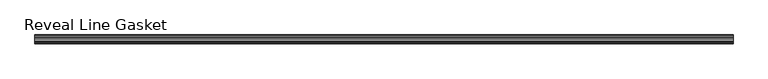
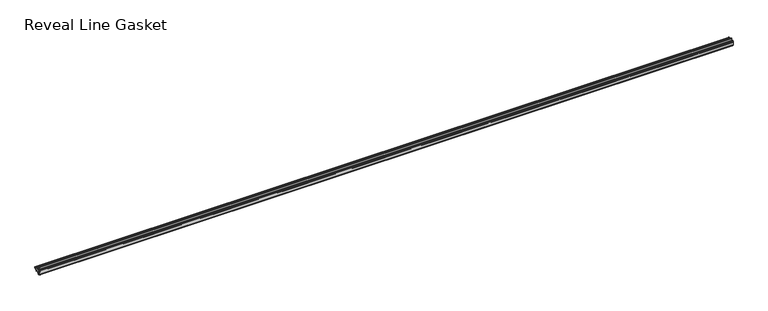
"""IFC4 building model written with IfcOpenShell, lengths in millimetres: proxy geometry, Accessories-Teknion-FHGR-AI_Healthcare-Reveal_Line_Gasket(Horizontal)-R2022 : Reveal Line Gasket."""

from ifc_helpers import new_model, si_unit, point, frame, frame_2d, origin, place, context, project, spatial, polyline, circle_curve, trimmed, segment, composite_curve, outline, extrude, source, transform, mapped, element, save


def reveal_line_gasket_2fde2d4f(model_context):
    return source(origin(), model_context, "Body", "SweptSolid", [
        extrude(outline(composite_curve([segment(polyline([(-7.6326998, 1603.2), (-7.4091917, 1604.1554927), (-6.8813059, 1605.0884684)]), True, "CONTINUOUS"), segment(trimmed(circle_curve(frame_2d((-6.5243141, 1604.8864793)), 0.4101739), [point((-6.8813059, 1605.0884684))], [point((-6.1246704, 1604.7941347))], False, "CARTESIAN"), True, "CONTINUOUS"), segment(polyline([(-6.1246704, 1604.7941347), (-6.3626997, 1603.0979086), (-6.3626997, 1601.0654527)]), True, "CONTINUOUS"), segment(trimmed(circle_curve(frame_2d((-5.6959605, 1601.4819258)), 0.786124), [point((-6.3626997, 1601.0654527))], [point((-5.0926996, 1600.977875))], True, "CARTESIAN"), True, "CONTINUOUS"), segment(polyline([(-5.0926996, 1600.977875), (-0.7492996, 1600.977875), (-3.7293824, 1606.1395295)]), True, "CONTINUOUS"), segment(trimmed(circle_curve(frame_2d((-3.3132479, 1606.2049761)), 0.4212495), [point((-3.7293824, 1606.1395295))], [point((-3.0485022, 1606.5326358))], False, "CARTESIAN"), True, "CONTINUOUS"), segment(polyline([(-3.0485022, 1606.5326358), (0.5742594, 1600.977875), (4.8262978, 1600.977875), (3.1660374, 1603.8535297)]), True, "CONTINUOUS"), segment(trimmed(circle_curve(frame_2d((3.5978728, 1603.9118855)), 0.4357605), [point((3.1660374, 1603.8535297))], [point((3.864328, 1604.2566881))], False, "CARTESIAN"), True, "CONTINUOUS"), segment(polyline([(3.864328, 1604.2566881), (6.1944059, 1600.977875), (7.6326998, 1600.977875), (7.6326998, 1599.422125), (6.1944059, 1599.422125), (3.864328, 1596.1433119)]), True, "CONTINUOUS"), segment(trimmed(circle_curve(frame_2d((3.5978728, 1596.4881145)), 0.4357605), [point((3.864328, 1596.1433119))], [point((3.1660374, 1596.5464703))], False, "CARTESIAN"), True, "CONTINUOUS"), segment(polyline([(3.1660374, 1596.5464703), (4.8262978, 1599.422125), (0.5742594, 1599.422125), (-3.0485022, 1593.8673642)]), True, "CONTINUOUS"), segment(trimmed(circle_curve(frame_2d((-3.3132479, 1594.1950239)), 0.4212495), [point((-3.0485022, 1593.8673642))], [point((-3.7293824, 1594.2604705))], False, "CARTESIAN"), True, "CONTINUOUS"), segment(polyline([(-3.7293824, 1594.2604705), (-0.7492996, 1599.422125), (-5.0926996, 1599.422125)]), True, "CONTINUOUS"), segment(trimmed(circle_curve(frame_2d((-5.6959605, 1598.9180742)), 0.786124), [point((-5.0926996, 1599.422125))], [point((-6.3626997, 1599.3345473))], True, "CARTESIAN"), True, "CONTINUOUS"), segment(polyline([(-6.3626997, 1599.3345473), (-6.3626997, 1597.3020914), (-6.1246704, 1595.6058653)]), True, "CONTINUOUS"), segment(trimmed(circle_curve(frame_2d((-6.5243141, 1595.5135207)), 0.4101739), [point((-6.1246704, 1595.6058653))], [point((-6.8813059, 1595.3115316))], False, "CARTESIAN"), True, "CONTINUOUS"), segment(polyline([(-6.8813059, 1595.3115316), (-7.4091917, 1596.2445073), (-7.6326998, 1597.2), (-7.6326998, 1603.2)]), True, "CONTINUOUS")], self_intersect=False)), frame((-607.7204, 0.0, 0.0), z_axis=(1.0, 0.0, 0.0), x_axis=(0.0, 1.0, 0.0)), (0.0, 0.0, 1.0), 1215.4408),
    ])


if __name__ == "__main__":
    model = new_model("IFC4")
    model_context = context("Model", 3, world=origin())
    ifc_project = project(units=[si_unit("LENGTHUNIT", "METRE", prefix="MILLI")], contexts=[model_context])
    site = spatial("IfcSite", under=ifc_project)
    building = spatial("IfcBuilding", under=site)
    placement = place(None, origin())
    reveal_line_gasket_shape = reveal_line_gasket_2fde2d4f(model_context)
    element("IfcBuildingElementProxy", 1, Name="Accessories-Teknion-FHGR-AI_Healthcare-Reveal_Line_Gasket(Horizontal)-R2022 : Reveal Line Gasket", ObjectType="Accessories-Teknion-FHGR-AI_Healthcare-Reveal_Line_Gasket(Horizontal)-R2022 : Reveal Line Gasket", at=placement, inside=building, context=model_context, shape_type="MappedRepresentation", body=[
        mapped(reveal_line_gasket_shape, transform((0.0, 0.0, 0.0), x_axis=(1.0, 0.0, 0.0), y_axis=(0.0, 1.0, 0.0), z_axis=(0.0, 0.0, 1.0))),
    ])
    save(model, "model.ifc")
